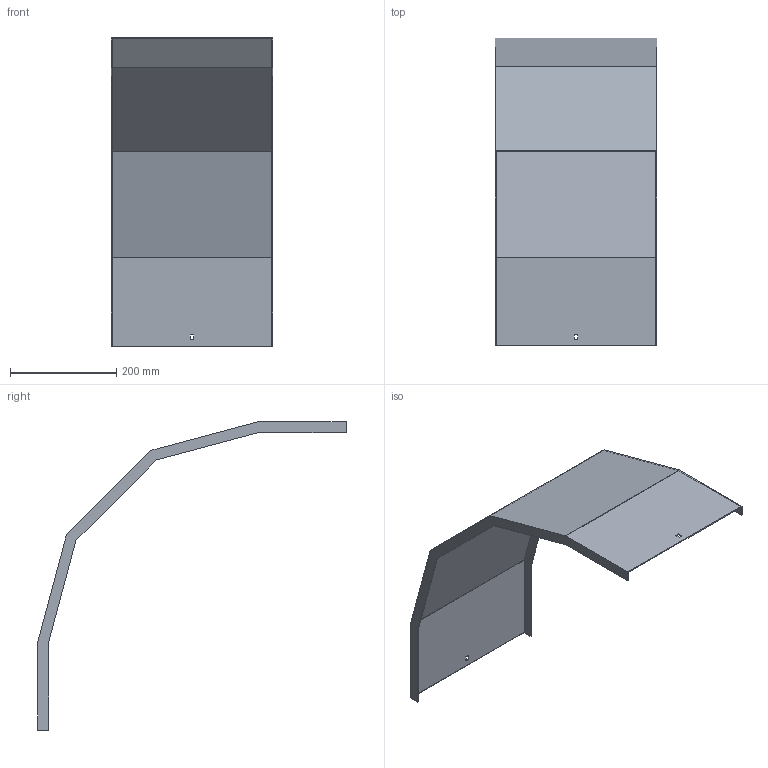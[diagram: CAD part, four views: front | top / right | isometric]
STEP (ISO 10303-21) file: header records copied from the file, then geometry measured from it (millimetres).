
FILE_DESCRIPTION (( 'STEP AP214' ), '1' );
FILE_NAME ('A2_33N3J300.step', '2025-02-21T10:45:30', ( '' ), ( '' ), 'SwSTEP 2.0', 'SolidWorks 2023', '' );
FILE_SCHEMA (( 'AUTOMOTIVE_DESIGN' ));
Length unit declared in the file: millimetre
Products named in the file (1): A2_33N3J300
Bounding box: 303 x 579.05 x 579.05 mm (x, y, z)
Volume: 494029.7 mm3; surface area: 662642.9 mm2
Topology: 1 solids, 1 shells, 34 faces, 96 edges, 64 vertices
Faces by surface type: plane 34
Entity records: 1111 total; most frequent: CARTESIAN_POINT 195, ORIENTED_EDGE 192, DIRECTION 166, VECTOR 96, LINE 96, EDGE_CURVE 96, VERTEX_POINT 64, EDGE_LOOP 38
